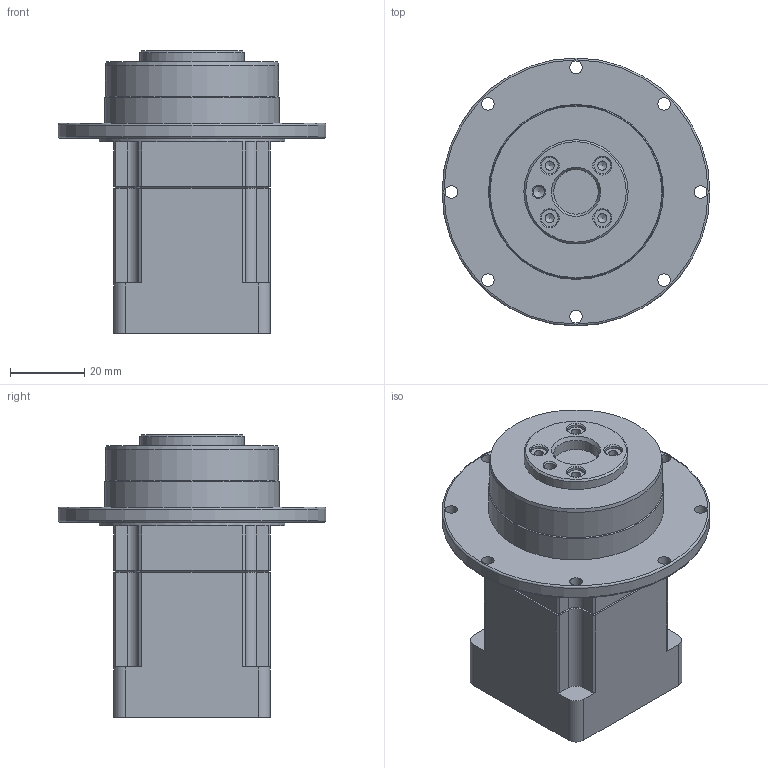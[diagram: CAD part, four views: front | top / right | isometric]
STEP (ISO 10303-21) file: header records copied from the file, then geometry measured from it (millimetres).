
FILE_DESCRIPTION((''),'2;1');
FILE_NAME('D:\유성\유성\도면\3D\2. 홈페이지용 3D 도면 (ipt)\외부도\SPIFH042\SPIFH042 SERIES (1 STAGE)_Shrinkwrap_1.stp','2014-05-08T14:02:58',('nagyu'),(''),'Autodesk Inventor 2013','Autodesk Inventor 2013','');
FILE_SCHEMA(('AUTOMOTIVE_DESIGN { 1 0 10303 214 1 1 1 1 }'));
Length unit declared in the file: millimetre
Products named in the file (1): SPIFH042 SERIES (1 STAGE)_Shrinkwrap_1
Bounding box: 72 x 72 x 75.9 mm (x, y, z)
Volume: 123834.7 mm3; surface area: 24627 mm2
Topology: 1 solids, 1 shells, 171 faces, 428 edges, 269 vertices
Faces by surface type: plane 72, cylinder 55, cone 42, torus 2
Full cylindrical faces by diameter (mm): 2.459 x4, 3 x1, 3.242 x4, 3.4 x8, 4.5 x4, 5 x1, 6 x1, 8 x1, 12 x1, 14.5 x1, 28 x1, 29.5 x1, 30 x1, 46.5 x1, 47 x1, 50 x1, 72 x1
Entity records: 4732 total; most frequent: CARTESIAN_POINT 881, DIRECTION 828, ORIENTED_EDGE 700, EDGE_CURVE 350, AXIS2_PLACEMENT_3D 335, EDGE_LOOP 260, VERTEX_POINT 250, FACE_OUTER_BOUND 171
